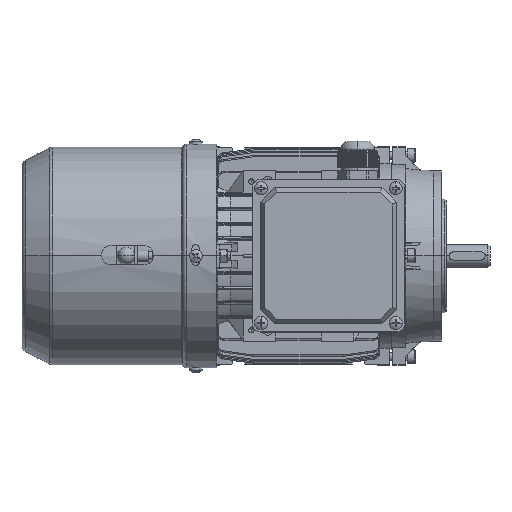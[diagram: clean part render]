
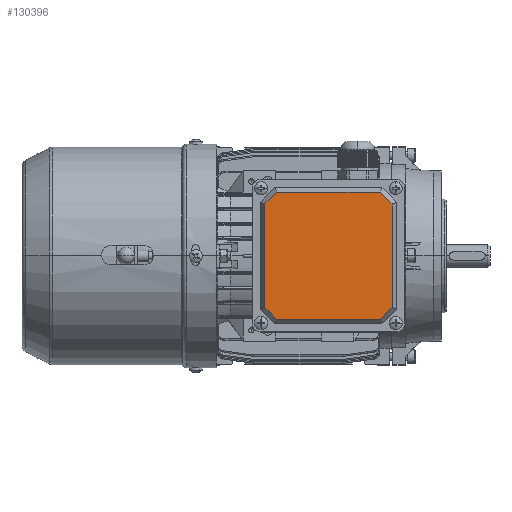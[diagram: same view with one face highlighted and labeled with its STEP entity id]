
A CAD part, top view. The second image highlights one B-rep face of the part: STEP entity #130396.
In plain terms, the highlighted planar face has unit normal (0, 0, 1).
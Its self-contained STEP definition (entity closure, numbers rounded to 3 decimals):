
#3820 = DIRECTION ( 'NONE',  ( 0., -1., 0. ) ) ;
#6387 = CARTESIAN_POINT ( 'NONE',  ( 30.691, 34.221, 109.794 ) ) ;
#7216 = CARTESIAN_POINT ( 'NONE',  ( -47.766, 33.073, 109.794 ) ) ;
#9014 = LINE ( 'NONE', #103128, #189045 ) ;
#9513 = EDGE_CURVE ( 'NONE', #35096, #100566, #9014, .T. ) ;
#14711 = ORIENTED_EDGE ( 'NONE', *, *, #147432, .T. ) ;
#16364 = CARTESIAN_POINT ( 'NONE',  ( 31.503, 32.262, 109.794 ) ) ;
#17479 = EDGE_CURVE ( 'NONE', #92948, #50114, #88192, .T. ) ;
#17978 = VERTEX_POINT ( 'NONE', #36640 ) ;
#19450 = CARTESIAN_POINT ( 'NONE',  ( 33.462, -40.779, 109.794 ) ) ;
#25526 = DIRECTION ( 'NONE',  ( 0.707, 0.707, 0. ) ) ;
#35096 = VERTEX_POINT ( 'NONE', #95586 ) ;
#36640 = CARTESIAN_POINT ( 'NONE',  ( 23.315, 40.45, 109.794 ) ) ;
#39893 = DIRECTION ( 'NONE',  ( 0.707, -0.707, 0. ) ) ;
#41878 = CARTESIAN_POINT ( 'NONE',  ( 24.462, 40.45, 109.794 ) ) ;
#44924 = EDGE_CURVE ( 'NONE', #17978, #35096, #72155, .T. ) ;
#45491 = CARTESIAN_POINT ( 'NONE',  ( 30.691, 33.073, 109.794 ) ) ;
#50114 = VERTEX_POINT ( 'NONE', #176888 ) ;
#65197 = EDGE_CURVE ( 'NONE', #89204, #110288, #183112, .T. ) ;
#68251 = ORIENTED_EDGE ( 'NONE', *, *, #65197, .T. ) ;
#70037 = DIRECTION ( 'NONE',  ( 0., 1., 0. ) ) ;
#72155 = LINE ( 'NONE', #41878, #129955 ) ;
#72682 = DIRECTION ( 'NONE',  ( -0.707, -0.707, 0. ) ) ;
#77496 = ORIENTED_EDGE ( 'NONE', *, *, #153686, .T. ) ;
#83185 = VECTOR ( 'NONE', #96847, 1000. ) ;
#84183 = PLANE ( 'NONE',  #155706 ) ;
#86808 = CARTESIAN_POINT ( 'NONE',  ( -47.766, -30.631, 109.794 ) ) ;
#88192 = LINE ( 'NONE', #154094, #120648 ) ;
#89204 = VERTEX_POINT ( 'NONE', #86808 ) ;
#92948 = VERTEX_POINT ( 'NONE', #131511 ) ;
#94274 = EDGE_CURVE ( 'NONE', #110288, #92948, #197689, .T. ) ;
#95586 = CARTESIAN_POINT ( 'NONE',  ( -40.39, 40.45, 109.794 ) ) ;
#96847 = DIRECTION ( 'NONE',  ( -0.707, 0.707, 0. ) ) ;
#100566 = VERTEX_POINT ( 'NONE', #7216 ) ;
#101704 = DIRECTION ( 'NONE',  ( 0., -1., 0. ) ) ;
#103128 = CARTESIAN_POINT ( 'NONE',  ( -39.578, 41.262, 109.794 ) ) ;
#104749 = ORIENTED_EDGE ( 'NONE', *, *, #17479, .T. ) ;
#109507 = ORIENTED_EDGE ( 'NONE', *, *, #44924, .T. ) ;
#110288 = VERTEX_POINT ( 'NONE', #160385 ) ;
#120648 = VECTOR ( 'NONE', #25526, 1000. ) ;
#125071 = LINE ( 'NONE', #16364, #83185 ) ;
#125997 = ORIENTED_EDGE ( 'NONE', *, *, #94274, .T. ) ;
#129955 = VECTOR ( 'NONE', #186090, 1000. ) ;
#130396 = ADVANCED_FACE ( 'NONE', ( #162647 ), #84183, .F. ) ;
#131511 = CARTESIAN_POINT ( 'NONE',  ( 23.315, -38.007, 109.794 ) ) ;
#134933 = VERTEX_POINT ( 'NONE', #45491 ) ;
#139289 = ORIENTED_EDGE ( 'NONE', *, *, #9513, .T. ) ;
#139298 = VECTOR ( 'NONE', #39893, 1000. ) ;
#147432 = EDGE_CURVE ( 'NONE', #134933, #17978, #125071, .T. ) ;
#148716 = CARTESIAN_POINT ( 'NONE',  ( -47.766, 34.221, 109.794 ) ) ;
#149536 = LINE ( 'NONE', #6387, #169037 ) ;
#153686 = EDGE_CURVE ( 'NONE', #50114, #134933, #149536, .T. ) ;
#154094 = CARTESIAN_POINT ( 'NONE',  ( 31.503, -29.819, 109.794 ) ) ;
#155706 = AXIS2_PLACEMENT_3D ( 'NONE', #19450, #161596, #3820 ) ;
#160385 = CARTESIAN_POINT ( 'NONE',  ( -40.39, -38.007, 109.794 ) ) ;
#161596 = DIRECTION ( 'NONE',  ( 0., 0., -1. ) ) ;
#162647 = FACE_OUTER_BOUND ( 'NONE', #176129, .T. ) ;
#169037 = VECTOR ( 'NONE', #70037, 1000. ) ;
#171610 = EDGE_CURVE ( 'NONE', #100566, #89204, #178031, .T. ) ;
#171842 = ORIENTED_EDGE ( 'NONE', *, *, #171610, .T. ) ;
#176129 = EDGE_LOOP ( 'NONE', ( #104749, #77496, #14711, #109507, #139289, #171842, #68251, #125997 ) ) ;
#176334 = VECTOR ( 'NONE', #101704, 1000. ) ;
#176888 = CARTESIAN_POINT ( 'NONE',  ( 30.691, -30.631, 109.794 ) ) ;
#178031 = LINE ( 'NONE', #148716, #176334 ) ;
#182088 = CARTESIAN_POINT ( 'NONE',  ( -39.578, -38.819, 109.794 ) ) ;
#183112 = LINE ( 'NONE', #182088, #139298 ) ;
#186090 = DIRECTION ( 'NONE',  ( -1., 0., 0. ) ) ;
#186171 = DIRECTION ( 'NONE',  ( 1., 0., 0. ) ) ;
#187953 = VECTOR ( 'NONE', #186171, 1000. ) ;
#189045 = VECTOR ( 'NONE', #72682, 1000. ) ;
#197689 = LINE ( 'NONE', #200712, #187953 ) ;
#200712 = CARTESIAN_POINT ( 'NONE',  ( 24.462, -38.007, 109.794 ) ) ;
